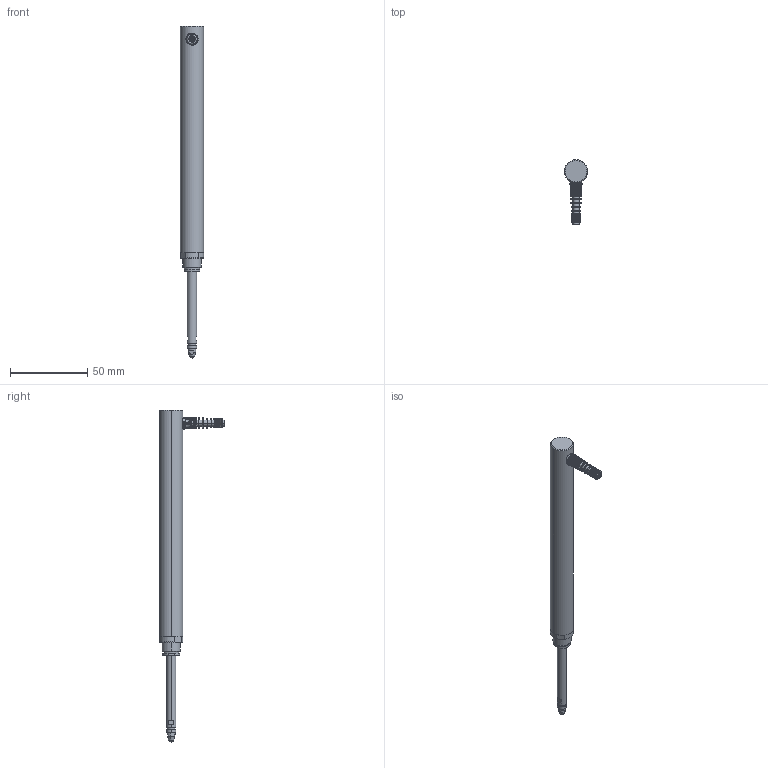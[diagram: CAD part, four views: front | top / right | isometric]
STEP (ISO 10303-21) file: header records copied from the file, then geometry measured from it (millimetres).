
FILE_DESCRIPTION (( 'STEP AP214' ), '1' );
FILE_NAME ('DP-25_exterior.STEP', '2015-10-07T05:42:58', ( 'ysgoodman' ), ( '' ), 'SwSTEP 2.0', 'SolidWorks 2014', '' );
FILE_SCHEMA (( 'AUTOMOTIVE_DESIGN' ));
Length unit declared in the file: millimetre
Products named in the file (1): DP-25_exterior
Bounding box: 15 x 41.89 x 215.11 mm (x, y, z)
Surface area: 11780.3 mm2 (no closed solid volume)
Topology: 0 solids, 35 shells, 178 faces, 392 edges, 234 vertices
Faces by surface type: torus 92, cylinder 37, plane 34, cone 13, sphere 2
Entity records: 7007 total; most frequent: DIRECTION 1036, CARTESIAN_POINT 909, ORIENTED_EDGE 736, AXIS2_PLACEMENT_3D 480, EDGE_CURVE 387, CIRCLE 301, VERTEX_POINT 231, EDGE_LOOP 195
